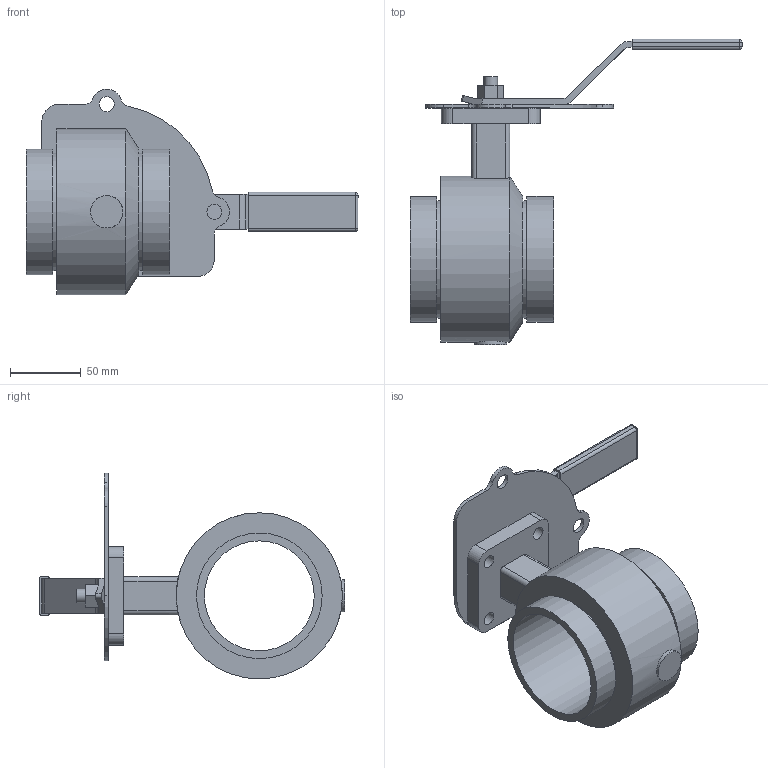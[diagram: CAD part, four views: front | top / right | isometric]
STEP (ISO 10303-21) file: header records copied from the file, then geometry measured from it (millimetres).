
FILE_DESCRIPTION(/* description */ ('VIC STRENGTHIN 300 MASTERSEAL BUTTERFLY VALVE E461 w/LH','CAx-IF Rec.Pracs.---Representation and Presentation of Product Manufacturing Information (PMI)---4.0---2014-10-13'),/* implementation_level */ '2;1');
FILE_NAME(/* name */ 'C:\Users\Vjadhav\AppData\Roaming\Autodesk\ApplicationPlugins\Back Up\Victaulic_SS-StrengThin 100_Valve Butterfly Lever Handle_Series E461 (ST1)\Victaulic_SS-StrengThin 100_Valve Butterfly Lever Handle_3 (80).stp',/* time_stamp */ '2020-07-07T16:33:47+05:00',/* author */ ('jbrannon'),/* organization */ ('Victaulic'),/* preprocessor_version */ 'ST-DEVELOPER v17.2',/* originating_system */ 'Autodesk Inventor 2019',/* authorisation */ '');
FILE_SCHEMA (('AP242_MANAGED_MODEL_BASED_3D_ENGINEERING_MIM_LF { 1 0 10303 442 1 1 4 }'));
Length unit declared in the file: inch
Products named in the file (4): E461-03.0; E461-03.0_1; E461-02.0; E461-03.0_2
Assembly tree (3 placements, depth 2):
  E461-03.0
    E461-03.0_1
    E461-02.0
    E461-03.0_2
Bounding box: 234.94 x 216.15 x 145.66 mm (x, y, z)
Volume: 527114.9 mm3; surface area: 129682 mm2
Topology: 3 solids, 3 shells, 107 faces, 273 edges, 181 vertices
Faces by surface type: cylinder 52, plane 50, sphere 4, cone 1
Full cylindrical faces by diameter (mm): 9.652 x10, 10.668 x2, 18.288 x1, 22.86 x1, 54.102 x1, 77.787 x1, 83.185 x2, 88.9 x2, 117.602 x1
Entity records: 3675 total; most frequent: CARTESIAN_POINT 639, DIRECTION 609, ORIENTED_EDGE 546, EDGE_CURVE 273, AXIS2_PLACEMENT_3D 229, VERTEX_POINT 181, LINE 151, VECTOR 151
